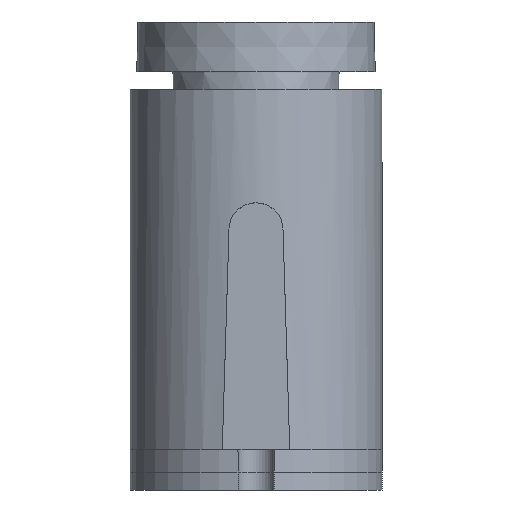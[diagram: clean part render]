
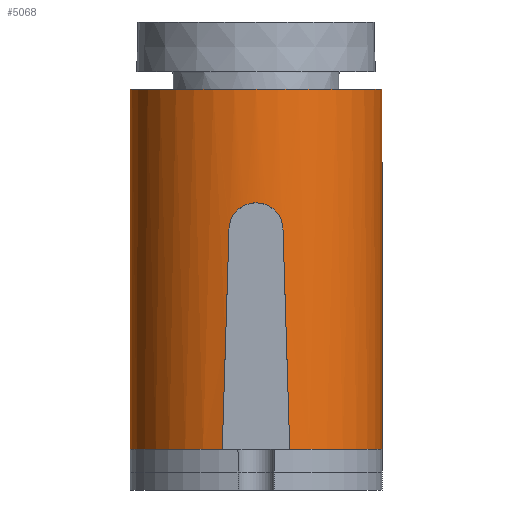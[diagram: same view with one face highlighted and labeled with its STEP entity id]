
A CAD part, left-side view. The second image highlights one B-rep face of the part: STEP entity #5068.
In plain terms, the highlighted cylindrical face has radius 44.45 mm (diameter 88.9 mm), a partial arc.
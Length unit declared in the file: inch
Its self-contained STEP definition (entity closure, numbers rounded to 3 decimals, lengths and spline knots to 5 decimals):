
#15=ELLIPSE('',#5387,57.19345,1.75);
#16=ELLIPSE('',#5391,57.19345,1.75);
#20=ELLIPSE('',#5443,57.0093,1.75);
#21=ELLIPSE('',#5445,57.0093,1.75);
#146=CYLINDRICAL_SURFACE('',#5455,1.75);
#327=CIRCLE('',#5394,1.75);
#331=CIRCLE('',#5398,1.75);
#351=CIRCLE('',#5456,1.75);
#617=FACE_OUTER_BOUND('',#929,.T.);
#929=EDGE_LOOP('',(#3675,#3676,#3677,#3678,#3679,#3680,#3681,#3682,#3683,
#3684));
#1295=LINE('',#19608,#1605);
#1296=LINE('',#19610,#1606);
#1605=VECTOR('',#6286,3.98246);
#1606=VECTOR('',#6289,3.98246);
#1825=B_SPLINE_CURVE_WITH_KNOTS('',3,(#19388,#19389,#19390,#19391,#19392,
#19393,#19394,#19395,#19396,#19397,#19398,#19399,#19400,#19401,#19402,#19403,
#19404,#19405),.UNSPECIFIED.,.F.,.F.,(4,2,2,2,2,2,2,2,4),(0.02902,
0.36018,0.72036,1.08052,1.44067,1.80083,
2.16098,2.52116,2.85233),.UNSPECIFIED.);
#2073=VERTEX_POINT('',#19378);
#2074=VERTEX_POINT('',#19379);
#2077=VERTEX_POINT('',#19387);
#2079=VERTEX_POINT('',#19410);
#2081=VERTEX_POINT('',#19418);
#2088=VERTEX_POINT('',#19432);
#2134=VERTEX_POINT('',#19565);
#2135=VERTEX_POINT('',#19567);
#2137=VERTEX_POINT('',#19572);
#2140=VERTEX_POINT('',#19578);
#2617=EDGE_CURVE('',#2073,#2074,#15,.T.);
#2621=EDGE_CURVE('',#2074,#2077,#1825,.T.);
#2624=EDGE_CURVE('',#2077,#2079,#16,.T.);
#2628=EDGE_CURVE('',#2073,#2081,#327,.T.);
#2636=EDGE_CURVE('',#2088,#2079,#331,.T.);
#2700=EDGE_CURVE('',#2135,#2134,#20,.T.);
#2706=EDGE_CURVE('',#2137,#2140,#21,.T.);
#2721=EDGE_CURVE('',#2088,#2137,#1295,.T.);
#2722=EDGE_CURVE('',#2140,#2135,#351,.T.);
#2723=EDGE_CURVE('',#2081,#2134,#1296,.T.);
#3675=ORIENTED_EDGE('',*,*,#2624,.T.);
#3676=ORIENTED_EDGE('',*,*,#2636,.F.);
#3677=ORIENTED_EDGE('',*,*,#2721,.T.);
#3678=ORIENTED_EDGE('',*,*,#2706,.T.);
#3679=ORIENTED_EDGE('',*,*,#2722,.T.);
#3680=ORIENTED_EDGE('',*,*,#2700,.T.);
#3681=ORIENTED_EDGE('',*,*,#2723,.F.);
#3682=ORIENTED_EDGE('',*,*,#2628,.F.);
#3683=ORIENTED_EDGE('',*,*,#2617,.T.);
#3684=ORIENTED_EDGE('',*,*,#2621,.T.);
#5068=ADVANCED_FACE('',(#617),#146,.T.);
#5387=AXIS2_PLACEMENT_3D('',#19380,#6080,#6081);
#5391=AXIS2_PLACEMENT_3D('',#19411,#6092,#6093);
#5394=AXIS2_PLACEMENT_3D('',#19419,#6101,#6102);
#5398=AXIS2_PLACEMENT_3D('',#19434,#6113,#6114);
#5443=AXIS2_PLACEMENT_3D('',#19568,#6245,#6246);
#5445=AXIS2_PLACEMENT_3D('',#19580,#6254,#6255);
#5455=AXIS2_PLACEMENT_3D('',#19607,#6284,#6285);
#5456=AXIS2_PLACEMENT_3D('',#19609,#6287,#6288);
#6080=DIRECTION('center_axis',(0.,1.,0.031));
#6081=DIRECTION('ref_axis',(0.,0.031,-1.));
#6092=DIRECTION('center_axis',(0.,-1.,
0.031));
#6093=DIRECTION('ref_axis',(0.,0.031,1.));
#6101=DIRECTION('center_axis',(0.,0.,
-1.));
#6102=DIRECTION('ref_axis',(0.,1.,0.));
#6113=DIRECTION('center_axis',(0.,0.,
-1.));
#6114=DIRECTION('ref_axis',(0.,1.,0.));
#6245=DIRECTION('center_axis',(-1.,0.,
-0.031));
#6246=DIRECTION('ref_axis',(-0.031,0.,1.));
#6254=DIRECTION('center_axis',(-1.,0.,
-0.031));
#6255=DIRECTION('ref_axis',(-0.031,0.,1.));
#6284=DIRECTION('center_axis',(0.,0.,
1.));
#6285=DIRECTION('ref_axis',(0.,1.,0.));
#6286=DIRECTION('',(0.,0.,1.));
#6287=DIRECTION('center_axis',(0.,0.,
-1.));
#6288=DIRECTION('ref_axis',(0.,1.,0.));
#6289=DIRECTION('',(0.,0.,1.));
#19378=CARTESIAN_POINT('',(-4.7798,0.46875,0.5625));
#19379=CARTESIAN_POINT('',(-4.8031,0.375,3.625));
#19380=CARTESIAN_POINT('Origin',(-3.09375,0.,15.875));
#19387=CARTESIAN_POINT('',(-4.8031,-0.375,3.625));
#19388=CARTESIAN_POINT('Ctrl Pts',(-4.8031,0.375,3.625));
#19389=CARTESIAN_POINT('Ctrl Pts',(-4.80339,0.37366,
3.66887));
#19390=CARTESIAN_POINT('Ctrl Pts',(-4.80554,0.36415,
3.71482));
#19391=CARTESIAN_POINT('Ctrl Pts',(-4.81297,0.32737,3.80349));
#19392=CARTESIAN_POINT('Ctrl Pts',(-4.81843,0.29852,
3.84558));
#19393=CARTESIAN_POINT('Ctrl Pts',(-4.82862,0.23206,
3.91204));
#19394=CARTESIAN_POINT('Ctrl Pts',(-4.83403,0.18997,
3.94089));
#19395=CARTESIAN_POINT('Ctrl Pts',(-4.84164,0.09758,
3.97922));
#19396=CARTESIAN_POINT('Ctrl Pts',(-4.84375,0.04726,3.9887));
#19397=CARTESIAN_POINT('Ctrl Pts',(-4.84375,-0.04726,3.9887));
#19398=CARTESIAN_POINT('Ctrl Pts',(-4.84164,-0.09758,
3.97922));
#19399=CARTESIAN_POINT('Ctrl Pts',(-4.83403,-0.18997,
3.94089));
#19400=CARTESIAN_POINT('Ctrl Pts',(-4.82862,-0.23206,
3.91204));
#19401=CARTESIAN_POINT('Ctrl Pts',(-4.81843,-0.29852,
3.84558));
#19402=CARTESIAN_POINT('Ctrl Pts',(-4.81297,-0.32737,
3.80349));
#19403=CARTESIAN_POINT('Ctrl Pts',(-4.80554,-0.36415,
3.71482));
#19404=CARTESIAN_POINT('Ctrl Pts',(-4.80339,-0.37366,
3.66887));
#19405=CARTESIAN_POINT('Ctrl Pts',(-4.8031,-0.375,3.625));
#19410=CARTESIAN_POINT('',(-4.7798,-0.46875,0.5625));
#19411=CARTESIAN_POINT('Origin',(-3.09375,0.,15.875));
#19418=CARTESIAN_POINT('',(-3.09375,1.75,0.5625));
#19419=CARTESIAN_POINT('Origin',(-3.09375,0.,0.5625));
#19432=CARTESIAN_POINT('',(-3.09375,-1.75,0.5625));
#19434=CARTESIAN_POINT('Origin',(-3.09375,0.,0.5625));
#19565=CARTESIAN_POINT('',(-3.09375,1.75,4.54496));
#19567=CARTESIAN_POINT('',(-3.125,1.74972,5.5625));
#19568=CARTESIAN_POINT('Origin',(-3.09375,0.,4.54496));
#19572=CARTESIAN_POINT('',(-3.09375,-1.75,4.54496));
#19578=CARTESIAN_POINT('',(-3.125,-1.74972,5.5625));
#19580=CARTESIAN_POINT('Origin',(-3.09375,0.,4.54496));
#19607=CARTESIAN_POINT('Origin',(-3.09375,0.,0.5625));
#19608=CARTESIAN_POINT('',(-3.09375,-1.75,0.5625));
#19609=CARTESIAN_POINT('Origin',(-3.09375,0.,5.5625));
#19610=CARTESIAN_POINT('',(-3.09375,1.75,0.5625));
